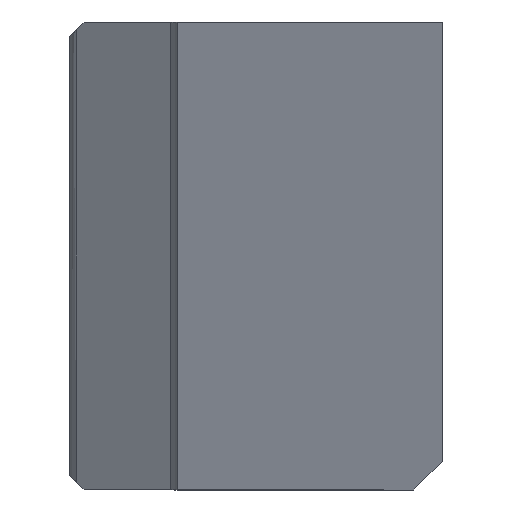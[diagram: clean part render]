
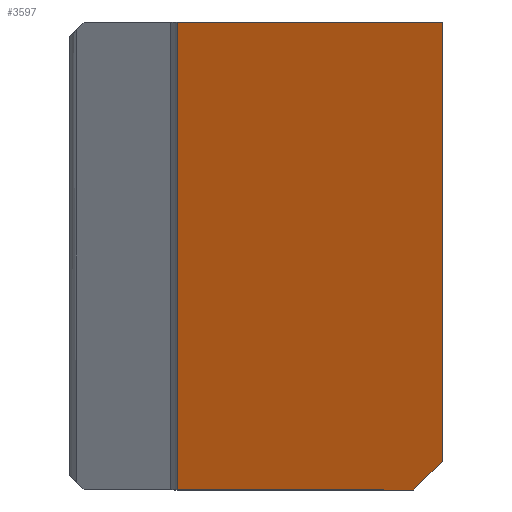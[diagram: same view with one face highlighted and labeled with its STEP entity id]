
A CAD part, left-side view. The second image highlights one B-rep face of the part: STEP entity #3597.
In plain terms, the highlighted planar face has unit normal (-0.943, 0, -0.334).
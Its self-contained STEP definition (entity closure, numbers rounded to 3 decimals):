
#517 = PLANE ( 'NONE',  #11219 ) ;
#942 = DIRECTION ( 'NONE',  ( -0.334, 0., 0.942 ) ) ;
#2097 = CARTESIAN_POINT ( 'NONE',  ( 17.379, 0., -49. ) ) ;
#2708 = LINE ( 'NONE', #20338, #13388 ) ;
#2825 = ORIENTED_EDGE ( 'NONE', *, *, #5091, .F. ) ;
#3597 = ADVANCED_FACE ( 'NONE', ( #7654 ), #517, .T. ) ;
#4005 = VECTOR ( 'NONE', #15687, 1000. ) ;
#4567 = ORIENTED_EDGE ( 'NONE', *, *, #8568, .F. ) ;
#5091 = EDGE_CURVE ( 'NONE', #8467, #9124, #9333, .T. ) ;
#6407 = VERTEX_POINT ( 'NONE', #19129 ) ;
#6765 = CARTESIAN_POINT ( 'NONE',  ( 17.379, 3., -49. ) ) ;
#7265 = ORIENTED_EDGE ( 'NONE', *, *, #22357, .T. ) ;
#7654 = FACE_OUTER_BOUND ( 'NONE', #16150, .T. ) ;
#8467 = VERTEX_POINT ( 'NONE', #13172 ) ;
#8568 = EDGE_CURVE ( 'NONE', #15253, #6407, #2708, .T. ) ;
#8804 = CARTESIAN_POINT ( 'NONE',  ( 0., 0., 0. ) ) ;
#9124 = VERTEX_POINT ( 'NONE', #8804 ) ;
#9333 = LINE ( 'NONE', #14525, #9839 ) ;
#9492 = DIRECTION ( 'NONE',  ( -0.942, 0., -0.334 ) ) ;
#9609 = DIRECTION ( 'NONE',  ( -0.334, 0., 0.942 ) ) ;
#9683 = LINE ( 'NONE', #16720, #11091 ) ;
#9839 = VECTOR ( 'NONE', #21674, 1000. ) ;
#10215 = CARTESIAN_POINT ( 'NONE',  ( 7.675, -24.361, -21.639 ) ) ;
#10528 = CARTESIAN_POINT ( 'NONE',  ( 16.315, 0., -46. ) ) ;
#10745 = EDGE_CURVE ( 'NONE', #6407, #8467, #9683, .T. ) ;
#11091 = VECTOR ( 'NONE', #942, 1000. ) ;
#11219 = AXIS2_PLACEMENT_3D ( 'NONE', #18250, #9492, #9609 ) ;
#12576 = EDGE_CURVE ( 'NONE', #9124, #13698, #19506, .T. ) ;
#13172 = CARTESIAN_POINT ( 'NONE',  ( 0., 27.75, 0. ) ) ;
#13388 = VECTOR ( 'NONE', #20227, 1000. ) ;
#13698 = VERTEX_POINT ( 'NONE', #10528 ) ;
#13890 = LINE ( 'NONE', #10215, #15481 ) ;
#14525 = CARTESIAN_POINT ( 'NONE',  ( 0., 39., 0. ) ) ;
#15253 = VERTEX_POINT ( 'NONE', #6765 ) ;
#15481 = VECTOR ( 'NONE', #22537, 1000. ) ;
#15687 = DIRECTION ( 'NONE',  ( 0.334, 0., -0.942 ) ) ;
#16150 = EDGE_LOOP ( 'NONE', ( #4567, #7265, #20330, #2825, #16698 ) ) ;
#16698 = ORIENTED_EDGE ( 'NONE', *, *, #10745, .F. ) ;
#16720 = CARTESIAN_POINT ( 'NONE',  ( 0., 27.75, 0. ) ) ;
#18250 = CARTESIAN_POINT ( 'NONE',  ( 0., 0., 0. ) ) ;
#19129 = CARTESIAN_POINT ( 'NONE',  ( 17.379, 27.75, -49. ) ) ;
#19506 = LINE ( 'NONE', #2097, #4005 ) ;
#20227 = DIRECTION ( 'NONE',  ( 0., 1., 0. ) ) ;
#20330 = ORIENTED_EDGE ( 'NONE', *, *, #12576, .F. ) ;
#20338 = CARTESIAN_POINT ( 'NONE',  ( 17.379, 39., -49. ) ) ;
#21674 = DIRECTION ( 'NONE',  ( 0., -1., 0. ) ) ;
#22357 = EDGE_CURVE ( 'NONE', #15253, #13698, #13890, .T. ) ;
#22537 = DIRECTION ( 'NONE',  ( -0.243, -0.686, 0.686 ) ) ;
